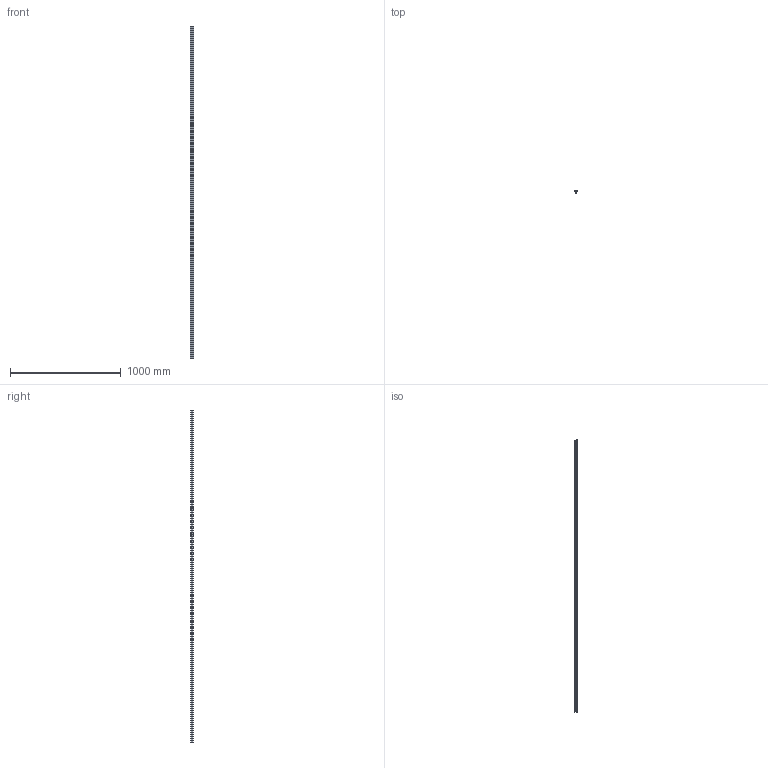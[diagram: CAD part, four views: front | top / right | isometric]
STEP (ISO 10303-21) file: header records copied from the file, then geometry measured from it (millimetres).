
FILE_DESCRIPTION (( 'STEP AP214' ), '1' );
FILE_NAME ('P10482L3.STEP', '2024-01-24T08:38:56', ( '' ), ( '' ), 'SwSTEP 2.0', 'SolidWorks 2022', '' );
FILE_SCHEMA (( 'AUTOMOTIVE_DESIGN' ));
Length unit declared in the file: millimetre
Products named in the file (1): P10482L3
Bounding box: 33.5 x 19.8 x 3000 mm (x, y, z)
Volume: 1065616.3 mm3; surface area: 387475.2 mm2
Topology: 1 solids, 1 shells, 28 faces, 78 edges, 52 vertices
Faces by surface type: plane 16, cylinder 12
Entity records: 940 total; most frequent: DIRECTION 160, CARTESIAN_POINT 159, ORIENTED_EDGE 156, EDGE_CURVE 78, VECTOR 54, LINE 54, AXIS2_PLACEMENT_3D 53, VERTEX_POINT 52
